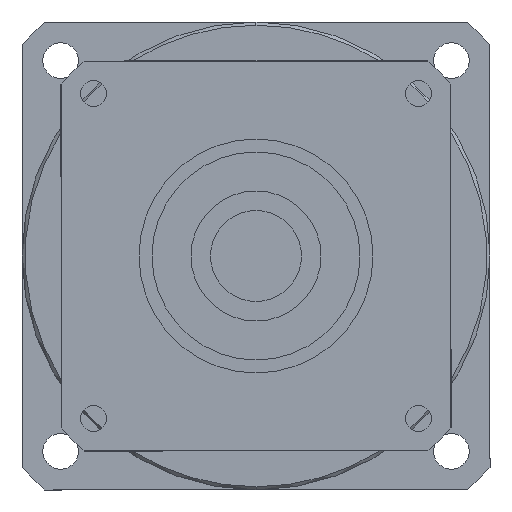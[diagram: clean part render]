
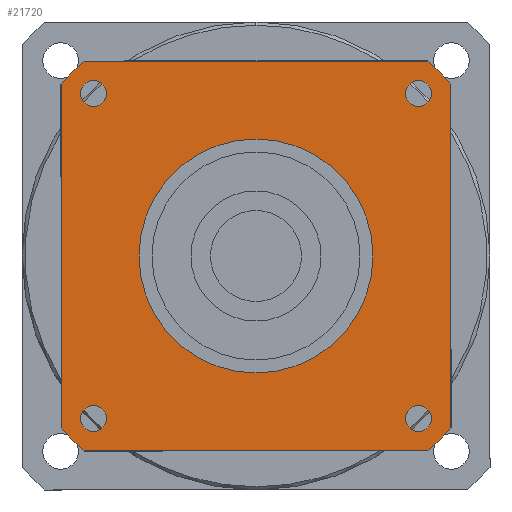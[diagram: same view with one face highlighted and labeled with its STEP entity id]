
A CAD part, left-side view. The second image highlights one B-rep face of the part: STEP entity #21720.
In plain terms, the highlighted planar face has unit normal (-1, 0, 0) as drawn and (0, 0, -1) by its records, which use the part's own axes.
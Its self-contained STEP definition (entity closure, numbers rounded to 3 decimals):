
#15410=CARTESIAN_POINT('',(26.458,30.,-95.));
#15420=VERTEX_POINT('',#15410);
#15450=CARTESIAN_POINT('',(0.,0.,
-95.));
#15460=DIRECTION('',(0.,0.,1.));
#15470=DIRECTION('',(0.,-1.,0.));
#15480=AXIS2_PLACEMENT_3D('',#15450,#15460,#15470);
#15490=CIRCLE('',#15480,40.);
#15500=CARTESIAN_POINT('',(30.,26.458,-95.));
#15510=VERTEX_POINT('',#15500);
#15520=EDGE_CURVE('',#15510,#15420,#15490,.T.);
#18330=CARTESIAN_POINT('',(-26.458,30.,-95.));
#18340=VERTEX_POINT('',#18330);
#18420=CARTESIAN_POINT('',(-30.,26.458,-95.));
#18430=VERTEX_POINT('',#18420);
#18460=CARTESIAN_POINT('',(0.,0.,
-95.));
#18470=DIRECTION('',(0.,0.,1.));
#18480=DIRECTION('',(0.,-1.,0.));
#18490=AXIS2_PLACEMENT_3D('',#18460,#18470,#18480);
#18500=CIRCLE('',#18490,40.);
#18510=EDGE_CURVE('',#18340,#18430,#18500,.T.);
#19020=CARTESIAN_POINT('',(-30.,-26.458,-95.));
#19030=VERTEX_POINT('',#19020);
#19110=CARTESIAN_POINT('',(-26.458,-30.,-95.));
#19120=VERTEX_POINT('',#19110);
#19150=CARTESIAN_POINT('',(0.,0.,
-95.));
#19160=DIRECTION('',(0.,0.,1.));
#19170=DIRECTION('',(0.,-1.,0.));
#19180=AXIS2_PLACEMENT_3D('',#19150,#19160,#19170);
#19190=CIRCLE('',#19180,40.);
#19200=EDGE_CURVE('',#19030,#19120,#19190,.T.);
#19670=CARTESIAN_POINT('',(26.458,-30.,-95.));
#19680=VERTEX_POINT('',#19670);
#19760=CARTESIAN_POINT('',(30.,-26.458,-95.));
#19770=VERTEX_POINT('',#19760);
#19800=CARTESIAN_POINT('',(0.,0.,
-95.));
#19810=DIRECTION('',(0.,0.,1.));
#19820=DIRECTION('',(0.,-1.,0.));
#19830=AXIS2_PLACEMENT_3D('',#19800,#19810,#19820);
#19840=CIRCLE('',#19830,40.);
#19850=EDGE_CURVE('',#19680,#19770,#19840,.T.);
#20000=CARTESIAN_POINT('',(30.,-30.,-95.));
#20010=DIRECTION('',(0.,1.,0.));
#20020=VECTOR('',#20010,1000.);
#20030=LINE('',#20000,#20020);
#20040=EDGE_CURVE('',#19770,#15510,#20030,.T.);
#20190=CARTESIAN_POINT('',(30.,30.,-95.));
#20200=DIRECTION('',(-1.,0.,0.));
#20210=VECTOR('',#20200,1000.);
#20220=LINE('',#20190,#20210);
#20230=EDGE_CURVE('',#15420,#18340,#20220,.T.);
#20370=CARTESIAN_POINT('',(-25.,23.,-95.));
#20380=VERTEX_POINT('',#20370);
#20470=CARTESIAN_POINT('',(-25.,27.,-95.));
#20480=VERTEX_POINT('',#20470);
#20510=CARTESIAN_POINT('',(-25.,25.,-95.));
#20520=DIRECTION('',(0.,0.,-1.));
#20530=DIRECTION('',(-1.,0.,0.));
#20540=AXIS2_PLACEMENT_3D('',#20510,#20520,#20530);
#20550=CIRCLE('',#20540,2.);
#20560=CARTESIAN_POINT('',(-27.,25.,-95.));
#20570=VERTEX_POINT('',#20560);
#20580=EDGE_CURVE('',#20570,#20480,#20550,.T.);
#20600=EDGE_CURVE('',#20380,#20570,#20550,.T.);
#20650=CARTESIAN_POINT('',(-30.,30.,-95.));
#20660=DIRECTION('',(0.,0.,1.));
#20670=DIRECTION('',(-1.,0.,0.));
#20680=AXIS2_PLACEMENT_3D('',#20650,#20660,#20670);
#20690=PLANE('',#20680);
#20700=CARTESIAN_POINT('',(25.,-25.,-95.));
#20710=DIRECTION('',(0.,0.,-1.));
#20720=DIRECTION('',(1.,0.,0.));
#20730=AXIS2_PLACEMENT_3D('',#20700,#20710,#20720);
#20740=CIRCLE('',#20730,2.);
#20750=CARTESIAN_POINT('',(27.,-25.,-95.));
#20760=VERTEX_POINT('',#20750);
#20770=CARTESIAN_POINT('',(25.,-27.,-95.));
#20780=VERTEX_POINT('',#20770);
#20790=EDGE_CURVE('',#20760,#20780,#20740,.T.);
#20800=ORIENTED_EDGE('',*,*,#20790,.F.);
#20810=CARTESIAN_POINT('',(25.,-23.,-95.));
#20820=VERTEX_POINT('',#20810);
#20830=EDGE_CURVE('',#20780,#20820,#20740,.T.);
#20840=ORIENTED_EDGE('',*,*,#20830,.F.);
#20850=EDGE_CURVE('',#20820,#20760,#20740,.T.);
#20860=ORIENTED_EDGE('',*,*,#20850,.F.);
#20870=EDGE_LOOP('',(#20860,#20840,#20800));
#20880=FACE_BOUND('',#20870,.T.);
#20890=CARTESIAN_POINT('',(25.,25.,-95.));
#20900=DIRECTION('',(0.,0.,-1.));
#20910=DIRECTION('',(0.,1.,0.));
#20920=AXIS2_PLACEMENT_3D('',#20890,#20900,#20910);
#20930=CIRCLE('',#20920,2.);
#20940=CARTESIAN_POINT('',(25.,27.,-95.));
#20950=VERTEX_POINT('',#20940);
#20960=CARTESIAN_POINT('',(27.,25.,-95.));
#20970=VERTEX_POINT('',#20960);
#20980=EDGE_CURVE('',#20950,#20970,#20930,.T.);
#20990=ORIENTED_EDGE('',*,*,#20980,.F.);
#21000=CARTESIAN_POINT('',(23.,25.,-95.));
#21010=VERTEX_POINT('',#21000);
#21020=EDGE_CURVE('',#20970,#21010,#20930,.T.);
#21030=ORIENTED_EDGE('',*,*,#21020,.F.);
#21040=EDGE_CURVE('',#21010,#20950,#20930,.T.);
#21050=ORIENTED_EDGE('',*,*,#21040,.F.);
#21060=EDGE_LOOP('',(#21050,#21030,#20990));
#21070=FACE_BOUND('',#21060,.T.);
#21080=ORIENTED_EDGE('',*,*,#20580,.F.);
#21090=EDGE_CURVE('',#20480,#20380,#20550,.T.);
#21100=ORIENTED_EDGE('',*,*,#21090,.F.);
#21110=ORIENTED_EDGE('',*,*,#20600,.F.);
#21120=EDGE_LOOP('',(#21110,#21100,#21080));
#21130=FACE_BOUND('',#21120,.T.);
#21140=CARTESIAN_POINT('',(-25.,-25.,-95.));
#21150=DIRECTION('',(0.,0.,-1.));
#21160=DIRECTION('',(0.,-1.,0.));
#21170=AXIS2_PLACEMENT_3D('',#21140,#21150,#21160);
#21180=CIRCLE('',#21170,2.);
#21190=CARTESIAN_POINT('',(-25.,-27.,-95.));
#21200=VERTEX_POINT('',#21190);
#21210=CARTESIAN_POINT('',(-27.,-25.,-95.));
#21220=VERTEX_POINT('',#21210);
#21230=EDGE_CURVE('',#21200,#21220,#21180,.T.);
#21240=ORIENTED_EDGE('',*,*,#21230,.F.);
#21250=CARTESIAN_POINT('',(-23.,-25.,-95.));
#21260=VERTEX_POINT('',#21250);
#21270=EDGE_CURVE('',#21220,#21260,#21180,.T.);
#21280=ORIENTED_EDGE('',*,*,#21270,.F.);
#21290=EDGE_CURVE('',#21260,#21200,#21180,.T.);
#21300=ORIENTED_EDGE('',*,*,#21290,.F.);
#21310=EDGE_LOOP('',(#21300,#21280,#21240));
#21320=FACE_BOUND('',#21310,.T.);
#21330=ORIENTED_EDGE('',*,*,#19200,.F.);
#21340=CARTESIAN_POINT('',(-30.,-30.,-95.));
#21350=DIRECTION('',(1.,0.,0.));
#21360=VECTOR('',#21350,1000.);
#21370=LINE('',#21340,#21360);
#21380=EDGE_CURVE('',#19120,#19680,#21370,.T.);
#21390=ORIENTED_EDGE('',*,*,#21380,.F.);
#21400=ORIENTED_EDGE('',*,*,#19850,.F.);
#21410=ORIENTED_EDGE('',*,*,#20040,.F.);
#21420=ORIENTED_EDGE('',*,*,#15520,.F.);
#21430=ORIENTED_EDGE('',*,*,#20230,.F.);
#21440=ORIENTED_EDGE('',*,*,#18510,.F.);
#21450=CARTESIAN_POINT('',(-30.,30.,-95.));
#21460=DIRECTION('',(0.,-1.,0.));
#21470=VECTOR('',#21460,1000.);
#21480=LINE('',#21450,#21470);
#21490=EDGE_CURVE('',#18430,#19030,#21480,.T.);
#21500=ORIENTED_EDGE('',*,*,#21490,.F.);
#21510=EDGE_LOOP('',(#21500,#21440,#21430,#21420,#21410,#21400,#21390,
#21330));
#21520=FACE_OUTER_BOUND('',#21510,.T.);
#21530=CARTESIAN_POINT('',(0.,0.,
-95.));
#21540=DIRECTION('',(0.,0.,1.));
#21550=DIRECTION('',(0.,-1.,0.));
#21560=AXIS2_PLACEMENT_3D('',#21530,#21540,#21550);
#21570=CIRCLE('',#21560,18.);
#21580=CARTESIAN_POINT('',(18.,0.,-95.));
#21590=VERTEX_POINT('',#21580);
#21600=CARTESIAN_POINT('',(-18.,0.,-95.));
#21610=VERTEX_POINT('',#21600);
#21620=EDGE_CURVE('',#21590,#21610,#21570,.T.);
#21630=ORIENTED_EDGE('',*,*,#21620,.T.);
#21640=CARTESIAN_POINT('',(0.,-18.,-95.));
#21650=VERTEX_POINT('',#21640);
#21660=EDGE_CURVE('',#21650,#21590,#21570,.T.);
#21670=ORIENTED_EDGE('',*,*,#21660,.T.);
#21680=EDGE_CURVE('',#21610,#21650,#21570,.T.);
#21690=ORIENTED_EDGE('',*,*,#21680,.T.);
#21700=EDGE_LOOP('',(#21690,#21670,#21630));
#21710=FACE_BOUND('',#21700,.T.);
#21720=ADVANCED_FACE('',(#20880,#21070,#21130,#21320,#21520,#21710),
#20690,.F.);
